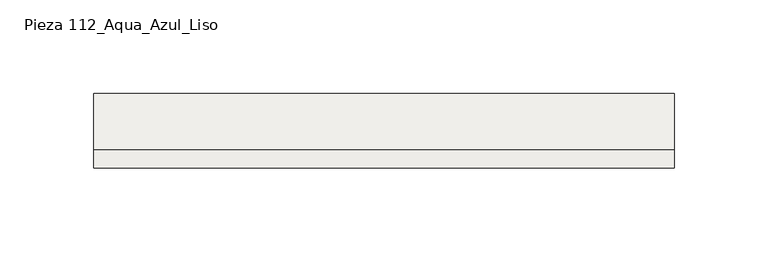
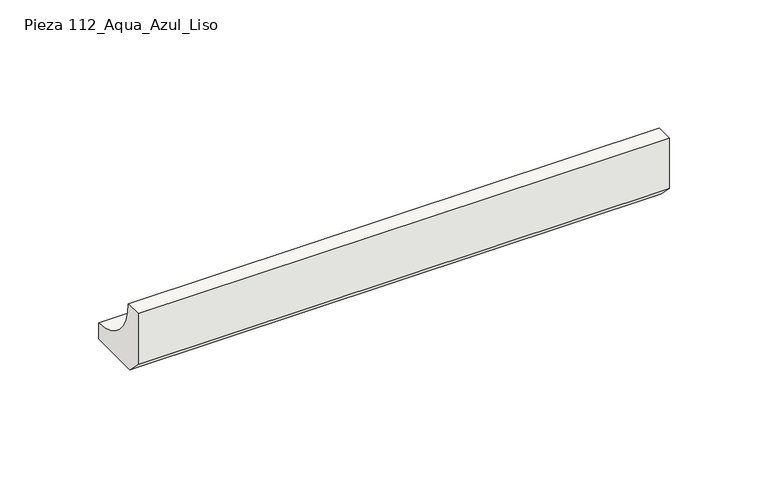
"""IFC4 building model written with IfcOpenShell, lengths in millimetres: slab geometry, ROSA GRES_112 : Pieza 112_Aqua_Azul_Liso."""

from ifc_helpers import new_model, si_unit, point, frame, frame_2d, origin, place, context, project, spatial, polyline, circle_curve, trimmed, segment, composite_curve, outline, extrude, source, transform, mapped, element, save


def pieza_112_aqua_azul_liso_da3c05e6(model_context):
    return source(origin(), model_context, "Body", "SweptSolid", [
        extrude(outline(composite_curve([segment(polyline([(0.0, 8.7114978), (0.0, 40.0), (9.9734114, 40.0)]), True, "CONTINUOUS"), segment(trimmed(circle_curve(frame_2d((39.9955547, 39.9955547)), 30.0221435), [point((9.9734114, 40.0))], [point((40.0, 9.9734114))], True, "CARTESIAN"), True, "CONTINUOUS"), segment(polyline([(40.0, 9.9734114), (40.0, 0.0), (8.7114978, 0.0), (0.0, 8.7114978)]), True, "CONTINUOUS")], self_intersect=False)), frame((0.0, 0.0, 0.0), z_axis=(1.0, 0.0, 0.0), x_axis=(0.0, 1.0, 0.0)), (0.0, 0.0, 1.0), 310.2423021),
    ])


if __name__ == "__main__":
    model = new_model("IFC4")
    model_context = context("Model", 3, world=origin())
    ifc_project = project(units=[si_unit("LENGTHUNIT", "METRE", prefix="MILLI")], contexts=[model_context])
    site = spatial("IfcSite", under=ifc_project)
    building = spatial("IfcBuilding", under=site)
    placement = place(None, origin())
    pieza_112_aqua_azul_liso_shape = pieza_112_aqua_azul_liso_da3c05e6(model_context)
    element("IfcSlab", 1, ObjectType="ROSA GRES_112 : Pieza 112_Aqua_Azul_Liso", at=placement, inside=building, context=model_context, shape_type="MappedRepresentation", body=[
        mapped(pieza_112_aqua_azul_liso_shape, transform((0.0, 0.0, 0.0), x_axis=(1.0, 0.0, 0.0), y_axis=(0.0, 1.0, 0.0), z_axis=(0.0, 0.0, 1.0))),
    ])
    save(model, "model.ifc")
